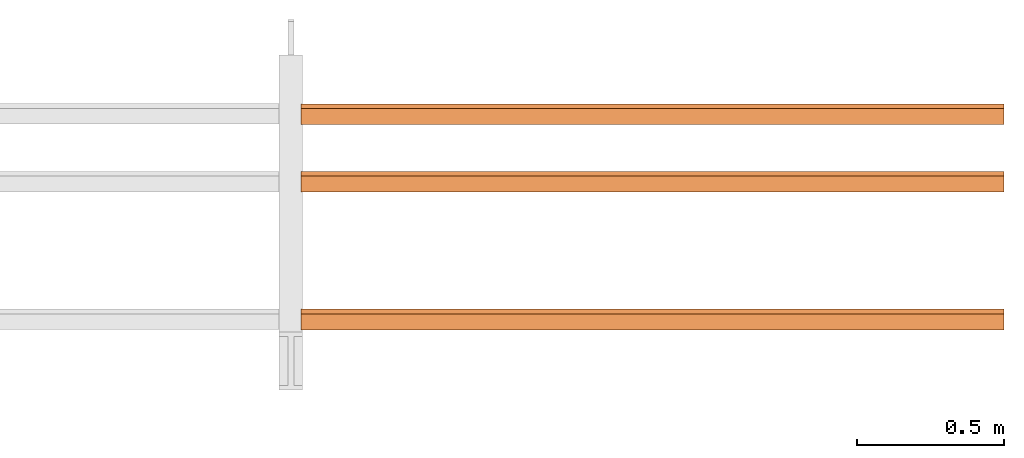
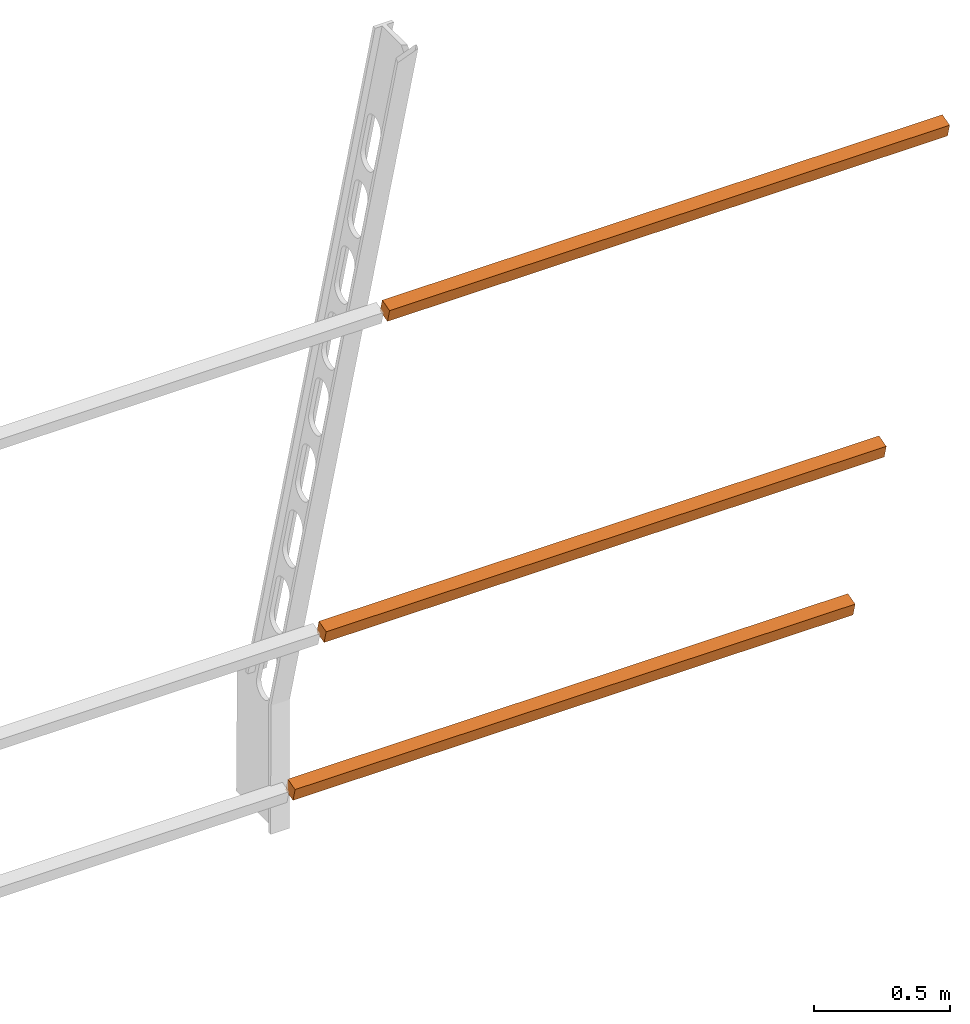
# One storey, part 3 of 3: 1 proxy.
"""IFC2X3 building model written with IfcOpenShell, lengths in millimetres."""

from ifc_helpers import new_model, entity, si_unit, converted_unit, derived_unit, direction, frame, origin, origin_with_axes, place, context, subcontext, project, spatial, faceted_brep, material, type_object, element, save


model = new_model("IFC2X3")

# Units and contexts
model_context = context("Model", 3, precision=0.01, world=origin(), true_north=direction((6.12303176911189e-17, 1.0)))
plan_context = context("Plan", 3, precision=1e-05, world=origin_with_axes())
body_context = subcontext(model_context, "Body", "Model", "MODEL_VIEW")
ifc_project = project(units=[converted_unit("PLANEANGLEUNIT", "DEGREE", entity("IfcPositiveLengthMeasure", 0.0174532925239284), si_unit("PLANEANGLEUNIT", "RADIAN"), dimensions=[0, 0, 0, 0, 0, 0, 0]), si_unit("AREAUNIT", "SQUARE_METRE"), si_unit("LENGTHUNIT", "METRE", prefix="MILLI"), si_unit("MASSUNIT", "GRAM", prefix="KILO"), si_unit("POWERUNIT", "WATT"), si_unit("PRESSUREUNIT", "PASCAL"), si_unit("FORCEUNIT", "NEWTON", prefix="KILO"), si_unit("ELECTRICVOLTAGEUNIT", "VOLT"), si_unit("ELECTRICCURRENTUNIT", "AMPERE"), si_unit("THERMODYNAMICTEMPERATUREUNIT", "DEGREE_CELSIUS"), si_unit("TIMEUNIT", "SECOND"), si_unit("VOLUMEUNIT", "CUBIC_METRE"), derived_unit("LINEARVELOCITYUNIT", [(si_unit("LENGTHUNIT", "METRE"), 1), (si_unit("TIMEUNIT", "SECOND"), -1)]), derived_unit("VOLUMETRICFLOWRATEUNIT", [(si_unit("VOLUMEUNIT", "CUBIC_METRE"), 1), (si_unit("TIMEUNIT", "SECOND"), -1)]), derived_unit("THERMALTRANSMITTANCEUNIT", [(si_unit("POWERUNIT", "WATT"), 1), (si_unit("THERMODYNAMICTEMPERATUREUNIT", "KELVIN"), -1), (si_unit("AREAUNIT", "SQUARE_METRE"), -1)]), derived_unit("SOUNDPRESSUREUNIT", [(si_unit("PRESSUREUNIT", "PASCAL"), 1)])], contexts=[model_context, plan_context])

# Site, building, storey
site_placement = place(None, frame((2314154.5009392, 1029894.10887124, 0.0), z_axis=(0.0, 0.0, 1.0), x_axis=(1.0, 0.0, 0.0)))
site = spatial("IfcSite", under=ifc_project, at=site_placement, Name="Default", CompositionType="ELEMENT")
building_placement = place(site_placement, origin_with_axes())
building = spatial("IfcBuilding", under=site, at=building_placement, CompositionType="ELEMENT")
storey_placement = place(building_placement, frame((0.0, 0.0, 9050.0), z_axis=(0.0, 0.0, 1.0), x_axis=(1.0, 0.0, 0.0)))
storey = spatial("IfcBuildingStorey", under=building, at=storey_placement, Name="XX - C +9,05", CompositionType="ELEMENT", Elevation=9050.0)

# Proxy
ifc_material = material(Name="_NSW Stål soyle")
building_element_proxy_type = type_object("IfcBuildingElementProxyType", Name="V_TA Stål Facade Columns Type 1:V_TA Stål Facade Columns", PredefinedType="NOTDEFINED", material=ifc_material)
proxy_placement = place(storey_placement, frame((117560.33394735, -41001.8887008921, 7884.42646847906), z_axis=(0.0, 0.965368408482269, 0.260890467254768), x_axis=(-1.0, 0.0, 0.0)))
element("IfcBuildingElementProxy", 1, at=proxy_placement, inside=storey, type_object=building_element_proxy_type, Name="V_TA Stål Facade Columns Type 1:V_TA Stål Facade Columns", ObjectType="V_TA Stål Facade Columns Type 1:V_TA Stål Facade Columns", context=body_context, shape_type="Brep", body=[
    faceted_brep([(2660.0, -7834.79443856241, 4.48892470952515), (2660.0, -7834.79443856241, 60.4889247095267), (2660.0, -7774.7944385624, 60.4889247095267), (2660.0, -7774.7944385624, 4.48892470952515), (275.023049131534, -7774.7944385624, 60.4889247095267), (275.023049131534, -7774.7944385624, 4.48892470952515), (275.023049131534, -7834.79443856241, 4.48892470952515), (275.023049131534, -7834.79443856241, 60.4889247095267)], [[[0, 1, 2, 3]], [[4, 5, 3, 2]], [[6, 7, 1, 0]], [[5, 6, 0, 3]], [[7, 4, 2, 1]], [[7, 6, 5, 4]]], orient=[[False], [False], [False], [False], [False], [False]]),
    faceted_brep([(2660.0, -6954.80968521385, 4.48892470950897), (2660.0, -6954.80968521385, 60.4889247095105), (2660.0, -6894.80968521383, 60.4889247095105), (2660.0, -6894.80968521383, 4.48892470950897), (275.023049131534, -6894.80968521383, 60.4889247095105), (275.023049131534, -6894.80968521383, 4.48892470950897), (275.023049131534, -6954.80968521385, 4.48892470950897), (275.023049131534, -6954.80968521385, 60.4889247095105)], [[[0, 1, 2, 3]], [[4, 5, 3, 2]], [[6, 7, 1, 0]], [[5, 6, 0, 3]], [[7, 4, 2, 1]], [[7, 6, 5, 4]]], orient=[[False], [False], [False], [False], [False], [False]]),
    faceted_brep([(2660.0, -5163.78189310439, 4.48892470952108), (2660.0, -5163.78189310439, 60.4889247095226), (2660.0, -5103.78189310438, 60.4889247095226), (2660.0, -5103.78189310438, 4.48892470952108), (275.023049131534, -5103.78189310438, 60.4889247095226), (275.023049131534, -5103.78189310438, 4.48892470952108), (275.023049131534, -5163.78189310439, 4.48892470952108), (275.023049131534, -5163.78189310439, 60.4889247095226)], [[[0, 1, 2, 3]], [[4, 5, 3, 2]], [[6, 7, 1, 0]], [[5, 6, 0, 3]], [[7, 4, 2, 1]], [[7, 6, 5, 4]]], orient=[[False], [False], [False], [False], [False], [False]]),
])

save(model, "model.ifc")
